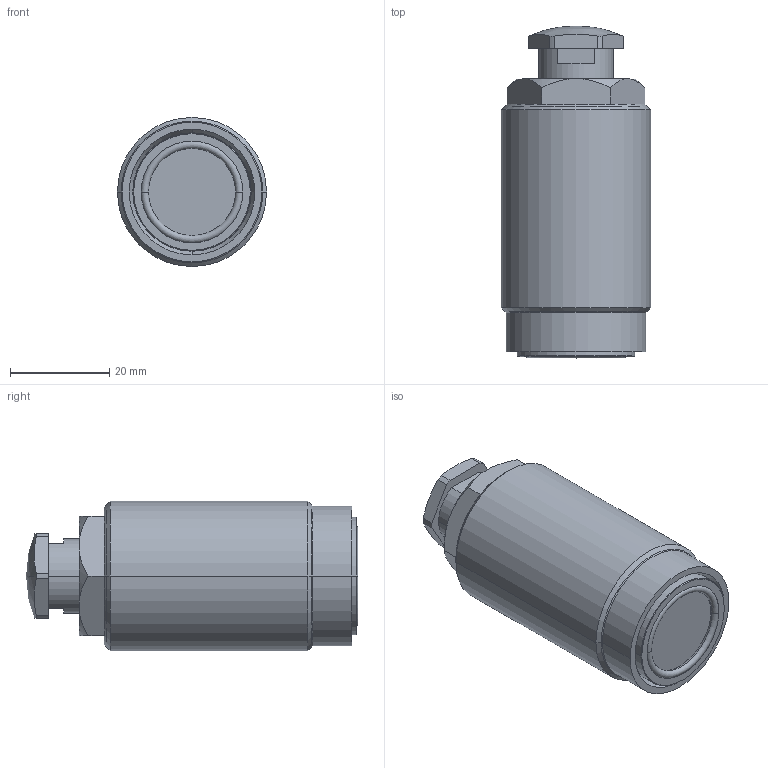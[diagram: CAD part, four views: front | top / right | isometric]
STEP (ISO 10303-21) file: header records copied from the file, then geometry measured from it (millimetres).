
FILE_DESCRIPTION((''),'2;1');
FILE_NAME('WSM-72_ASM','2012-12-18T',('chad.steele'),(''),'PRO/ENGINEER BY PARAMETRIC TECHNOLOGY CORPORATION, 2010040','PRO/ENGINEER BY PARAMETRIC TECHNOLOGY CORPORATION, 2010040','');
FILE_SCHEMA(('CONFIG_CONTROL_DESIGN'));
Length unit declared in the file: inch
Products named in the file (9): DA12427030; DA12430447; DA12434020; DA12426040; DA12366108; B1017403; CBA3210281E; CZ88045; WSM-72_ASM
Assembly tree (8 placements, depth 2):
  WSM-72_ASM
    DA12427030
    DA12430447
    DA12434020
    DA12426040
    DA12366108
    B1017403
    CBA3210281E
    CZ88045
Bounding box: 30 x 66.78 x 30 mm (x, y, z)
Volume: 28868.3 mm3; surface area: 25785.5 mm2
Topology: 8 solids, 11 shells, 169 faces, 366 edges, 220 vertices
Faces by surface type: cylinder 54, plane 53, cone 40, torus 18, sphere 4
Entity records: 4901 total; most frequent: DIRECTION 940, CARTESIAN_POINT 836, ORIENTED_EDGE 712, AXIS2_PLACEMENT_3D 398, EDGE_CURVE 362, VERTEX_POINT 220, CIRCLE 206, EDGE_LOOP 190
